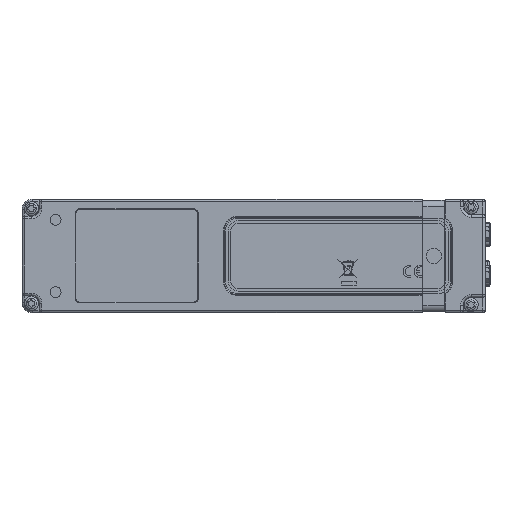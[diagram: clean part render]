
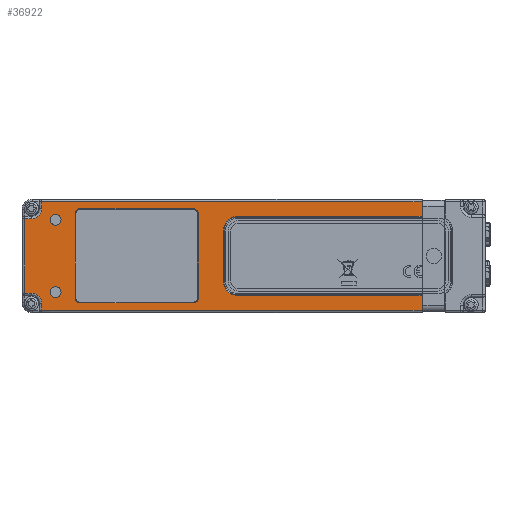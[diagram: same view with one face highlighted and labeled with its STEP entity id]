
A CAD part, front view. The second image highlights one B-rep face of the part: STEP entity #36922.
In plain terms, the highlighted planar face has unit normal (0, -1, 0).
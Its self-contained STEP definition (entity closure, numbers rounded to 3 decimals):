
#28693=PLANE('',#182022);
#36922=ADVANCED_FACE('',(#38285,#38286,#38287,#38288),#28693,.T.);
#38285=FACE_BOUND('',#47132,.T.);
#38286=FACE_BOUND('',#47133,.T.);
#38287=FACE_BOUND('',#47134,.T.);
#38288=FACE_BOUND('',#47135,.T.);
#47132=EDGE_LOOP('',(#91327,#91328,#91329,#91330,#91331,#91332,#91333,#91334));
#47133=EDGE_LOOP('',(#91335,#91336,#91337,#91338,#91339,#91340,#91341,#91342,
#91343,#91344,#91345,#91346,#91347,#91348,#91349,#91350));
#47134=EDGE_LOOP('',(#91351));
#47135=EDGE_LOOP('',(#91352));
#91327=ORIENTED_EDGE('',*,*,#129398,.T.);
#91328=ORIENTED_EDGE('',*,*,#129399,.T.);
#91329=ORIENTED_EDGE('',*,*,#129400,.T.);
#91330=ORIENTED_EDGE('',*,*,#129401,.T.);
#91331=ORIENTED_EDGE('',*,*,#129402,.T.);
#91332=ORIENTED_EDGE('',*,*,#129403,.T.);
#91333=ORIENTED_EDGE('',*,*,#129404,.T.);
#91334=ORIENTED_EDGE('',*,*,#129405,.T.);
#91335=ORIENTED_EDGE('',*,*,#129406,.T.);
#91336=ORIENTED_EDGE('',*,*,#129407,.T.);
#91337=ORIENTED_EDGE('',*,*,#129408,.T.);
#91338=ORIENTED_EDGE('',*,*,#129409,.T.);
#91339=ORIENTED_EDGE('',*,*,#129410,.T.);
#91340=ORIENTED_EDGE('',*,*,#129411,.T.);
#91341=ORIENTED_EDGE('',*,*,#129412,.T.);
#91342=ORIENTED_EDGE('',*,*,#129413,.T.);
#91343=ORIENTED_EDGE('',*,*,#129414,.T.);
#91344=ORIENTED_EDGE('',*,*,#129415,.T.);
#91345=ORIENTED_EDGE('',*,*,#129416,.T.);
#91346=ORIENTED_EDGE('',*,*,#129417,.T.);
#91347=ORIENTED_EDGE('',*,*,#129418,.T.);
#91348=ORIENTED_EDGE('',*,*,#129419,.T.);
#91349=ORIENTED_EDGE('',*,*,#129420,.T.);
#91350=ORIENTED_EDGE('',*,*,#129421,.T.);
#91351=ORIENTED_EDGE('',*,*,#129422,.T.);
#91352=ORIENTED_EDGE('',*,*,#129423,.T.);
#107101=VERTEX_POINT('',#311194);
#107102=VERTEX_POINT('',#311195);
#107103=VERTEX_POINT('',#311197);
#107104=VERTEX_POINT('',#311199);
#107105=VERTEX_POINT('',#311201);
#107106=VERTEX_POINT('',#311203);
#107107=VERTEX_POINT('',#311205);
#107108=VERTEX_POINT('',#311207);
#107109=VERTEX_POINT('',#311210);
#107110=VERTEX_POINT('',#311211);
#107111=VERTEX_POINT('',#311213);
#107112=VERTEX_POINT('',#311215);
#107113=VERTEX_POINT('',#311217);
#107114=VERTEX_POINT('',#311219);
#107115=VERTEX_POINT('',#311221);
#107116=VERTEX_POINT('',#311223);
#107117=VERTEX_POINT('',#311225);
#107118=VERTEX_POINT('',#311227);
#107119=VERTEX_POINT('',#311229);
#107120=VERTEX_POINT('',#311231);
#107121=VERTEX_POINT('',#311233);
#107122=VERTEX_POINT('',#311235);
#107123=VERTEX_POINT('',#311237);
#107124=VERTEX_POINT('',#311239);
#107125=VERTEX_POINT('',#311242);
#107126=VERTEX_POINT('',#311244);
#129398=EDGE_CURVE('',#107101,#107102,#158096,.T.);
#129399=EDGE_CURVE('',#107102,#107103,#140567,.T.);
#129400=EDGE_CURVE('',#107103,#107104,#158097,.T.);
#129401=EDGE_CURVE('',#107104,#107105,#140568,.T.);
#129402=EDGE_CURVE('',#107105,#107106,#158098,.T.);
#129403=EDGE_CURVE('',#107106,#107107,#140569,.T.);
#129404=EDGE_CURVE('',#107107,#107108,#158099,.T.);
#129405=EDGE_CURVE('',#107108,#107101,#140570,.T.);
#129406=EDGE_CURVE('',#107109,#107110,#158100,.T.);
#129407=EDGE_CURVE('',#107110,#107111,#158101,.T.);
#129408=EDGE_CURVE('',#107111,#107112,#158102,.T.);
#129409=EDGE_CURVE('',#107112,#107113,#158103,.T.);
#129410=EDGE_CURVE('',#107113,#107114,#140571,.T.);
#129411=EDGE_CURVE('',#107114,#107115,#158104,.T.);
#129412=EDGE_CURVE('',#107115,#107116,#158105,.T.);
#129413=EDGE_CURVE('',#107116,#107117,#158106,.T.);
#129414=EDGE_CURVE('',#107117,#107118,#140572,.T.);
#129415=EDGE_CURVE('',#107118,#107119,#158107,.T.);
#129416=EDGE_CURVE('',#107119,#107120,#158108,.T.);
#129417=EDGE_CURVE('',#107120,#107121,#158109,.T.);
#129418=EDGE_CURVE('',#107121,#107122,#158110,.T.);
#129419=EDGE_CURVE('',#107122,#107123,#140573,.T.);
#129420=EDGE_CURVE('',#107123,#107124,#158111,.T.);
#129421=EDGE_CURVE('',#107124,#107109,#140574,.T.);
#129422=EDGE_CURVE('',#107125,#107125,#140575,.T.);
#129423=EDGE_CURVE('',#107126,#107126,#140576,.T.);
#140567=CIRCLE('',#182012,1.8);
#140568=CIRCLE('',#182013,1.8);
#140569=CIRCLE('',#182014,1.8);
#140570=CIRCLE('',#182015,1.8);
#140571=CIRCLE('',#182016,4.);
#140572=CIRCLE('',#182017,4.);
#140573=CIRCLE('',#182018,5.3);
#140574=CIRCLE('',#182019,5.3);
#140575=CIRCLE('',#182020,2.1);
#140576=CIRCLE('',#182021,2.1);
#158096=LINE('',#311193,#171328);
#158097=LINE('',#311198,#171329);
#158098=LINE('',#311202,#171330);
#158099=LINE('',#311206,#171331);
#158100=LINE('',#311209,#171332);
#158101=LINE('',#311212,#171333);
#158102=LINE('',#311214,#171334);
#158103=LINE('',#311216,#171335);
#158104=LINE('',#311220,#171336);
#158105=LINE('',#311222,#171337);
#158106=LINE('',#311224,#171338);
#158107=LINE('',#311228,#171339);
#158108=LINE('',#311230,#171340);
#158109=LINE('',#311232,#171341);
#158110=LINE('',#311234,#171342);
#158111=LINE('',#311238,#171343);
#171328=VECTOR('',#216350,1.);
#171329=VECTOR('',#216353,1.);
#171330=VECTOR('',#216356,1.);
#171331=VECTOR('',#216359,1.);
#171332=VECTOR('',#216362,1.);
#171333=VECTOR('',#216363,1.);
#171334=VECTOR('',#216364,1.);
#171335=VECTOR('',#216365,1.);
#171336=VECTOR('',#216368,1.);
#171337=VECTOR('',#216369,1.);
#171338=VECTOR('',#216370,1.);
#171339=VECTOR('',#216373,1.);
#171340=VECTOR('',#216374,1.);
#171341=VECTOR('',#216375,1.);
#171342=VECTOR('',#216376,1.);
#171343=VECTOR('',#216379,1.);
#182012=AXIS2_PLACEMENT_3D('',#311196,#216351,#216352);
#182013=AXIS2_PLACEMENT_3D('',#311200,#216354,#216355);
#182014=AXIS2_PLACEMENT_3D('',#311204,#216357,#216358);
#182015=AXIS2_PLACEMENT_3D('',#311208,#216360,#216361);
#182016=AXIS2_PLACEMENT_3D('',#311218,#216366,#216367);
#182017=AXIS2_PLACEMENT_3D('',#311226,#216371,#216372);
#182018=AXIS2_PLACEMENT_3D('',#311236,#216377,#216378);
#182019=AXIS2_PLACEMENT_3D('',#311240,#216380,#216381);
#182020=AXIS2_PLACEMENT_3D('',#311241,#216382,#216383);
#182021=AXIS2_PLACEMENT_3D('',#311243,#216384,#216385);
#182022=AXIS2_PLACEMENT_3D('',#311245,#216386,#216387);
#216350=DIRECTION('',(0.,0.,-1.));
#216351=DIRECTION('',(0.,1.,0.));
#216352=DIRECTION('',(-1.,0.,0.));
#216353=DIRECTION('',(-1.,0.,0.));
#216354=DIRECTION('',(0.,1.,0.));
#216355=DIRECTION('',(-1.,0.,0.));
#216356=DIRECTION('',(0.,0.,1.));
#216357=DIRECTION('',(0.,1.,0.));
#216358=DIRECTION('',(-1.,0.,0.));
#216359=DIRECTION('',(1.,0.,0.));
#216360=DIRECTION('',(0.,1.,0.));
#216361=DIRECTION('',(-1.,0.,0.));
#216362=DIRECTION('',(1.,0.,0.));
#216363=DIRECTION('',(0.,0.,1.));
#216364=DIRECTION('',(-1.,0.,0.));
#216365=DIRECTION('',(0.,0.,-1.));
#216366=DIRECTION('',(0.,1.,0.));
#216367=DIRECTION('',(-1.,0.,0.));
#216368=DIRECTION('',(-1.,0.,0.));
#216369=DIRECTION('',(0.,0.,-1.));
#216370=DIRECTION('',(1.,0.,0.));
#216371=DIRECTION('',(0.,1.,0.));
#216372=DIRECTION('',(-1.,0.,0.));
#216373=DIRECTION('',(0.,0.,-1.));
#216374=DIRECTION('',(1.,0.,0.));
#216375=DIRECTION('',(0.,0.,1.));
#216376=DIRECTION('',(-1.,0.,0.));
#216377=DIRECTION('',(0.,1.,0.));
#216378=DIRECTION('',(-1.,0.,0.));
#216379=DIRECTION('',(0.,0.,1.));
#216380=DIRECTION('',(0.,1.,0.));
#216381=DIRECTION('',(-1.,0.,0.));
#216382=DIRECTION('',(0.,1.,0.));
#216383=DIRECTION('',(1.,0.,0.));
#216384=DIRECTION('',(0.,1.,0.));
#216385=DIRECTION('',(1.,0.,0.));
#216386=DIRECTION('',(0.,-1.,0.));
#216387=DIRECTION('',(-1.,0.,0.));
#311193=CARTESIAN_POINT('',(67.159,-5.,5.668));
#311194=CARTESIAN_POINT('',(67.159,-5.,38.468));
#311195=CARTESIAN_POINT('',(67.159,-5.,5.668));
#311196=CARTESIAN_POINT('',(65.359,-5.,5.668));
#311197=CARTESIAN_POINT('',(65.359,-5.,3.868));
#311198=CARTESIAN_POINT('',(21.359,-5.,3.868));
#311199=CARTESIAN_POINT('',(21.359,-5.,3.868));
#311200=CARTESIAN_POINT('',(21.359,-5.,5.668));
#311201=CARTESIAN_POINT('',(19.559,-5.,5.668));
#311202=CARTESIAN_POINT('',(19.559,-5.,38.468));
#311203=CARTESIAN_POINT('',(19.559,-5.,38.468));
#311204=CARTESIAN_POINT('',(21.359,-5.,38.468));
#311205=CARTESIAN_POINT('',(21.359,-5.,40.268));
#311206=CARTESIAN_POINT('',(65.359,-5.,40.268));
#311207=CARTESIAN_POINT('',(65.359,-5.,40.268));
#311208=CARTESIAN_POINT('',(65.359,-5.,38.468));
#311209=CARTESIAN_POINT('',(154.109,-5.,37.368));
#311210=CARTESIAN_POINT('',(82.359,-5.,37.368));
#311211=CARTESIAN_POINT('',(153.809,-5.,37.368));
#311212=CARTESIAN_POINT('',(153.809,-5.,43.068));
#311213=CARTESIAN_POINT('',(153.809,-5.,43.068));
#311214=CARTESIAN_POINT('',(88.684,-5.,43.068));
#311215=CARTESIAN_POINT('',(6.609,-5.,43.068));
#311216=CARTESIAN_POINT('',(6.609,-5.,40.468));
#311217=CARTESIAN_POINT('',(6.609,-5.,40.468));
#311218=CARTESIAN_POINT('',(2.609,-5.,40.468));
#311219=CARTESIAN_POINT('',(2.609,-5.,36.468));
#311220=CARTESIAN_POINT('',(-0.991,-5.,36.468));
#311221=CARTESIAN_POINT('',(0.009,-5.,36.468));
#311222=CARTESIAN_POINT('',(0.009,-5.,22.068));
#311223=CARTESIAN_POINT('',(0.009,-5.,7.668));
#311224=CARTESIAN_POINT('',(2.609,-5.,7.668));
#311225=CARTESIAN_POINT('',(2.609,-5.,7.668));
#311226=CARTESIAN_POINT('',(2.609,-5.,3.668));
#311227=CARTESIAN_POINT('',(6.609,-5.,3.668));
#311228=CARTESIAN_POINT('',(6.609,-5.,0.068));
#311229=CARTESIAN_POINT('',(6.609,-5.,1.068));
#311230=CARTESIAN_POINT('',(88.684,-5.,1.068));
#311231=CARTESIAN_POINT('',(153.809,-5.,1.068));
#311232=CARTESIAN_POINT('',(153.809,-5.,7.068));
#311233=CARTESIAN_POINT('',(153.809,-5.,6.768));
#311234=CARTESIAN_POINT('',(82.359,-5.,6.768));
#311235=CARTESIAN_POINT('',(82.359,-5.,6.768));
#311236=CARTESIAN_POINT('',(82.359,-5.,12.068));
#311237=CARTESIAN_POINT('',(77.059,-5.,12.068));
#311238=CARTESIAN_POINT('',(77.059,-5.,32.068));
#311239=CARTESIAN_POINT('',(77.059,-5.,32.068));
#311240=CARTESIAN_POINT('',(82.359,-5.,32.068));
#311241=CARTESIAN_POINT('',(12.009,-5.,8.068));
#311242=CARTESIAN_POINT('',(14.109,-5.,8.068));
#311243=CARTESIAN_POINT('',(12.009,-5.,36.068));
#311244=CARTESIAN_POINT('',(14.109,-5.,36.068));
#311245=CARTESIAN_POINT('',(88.684,-5.,22.068));
